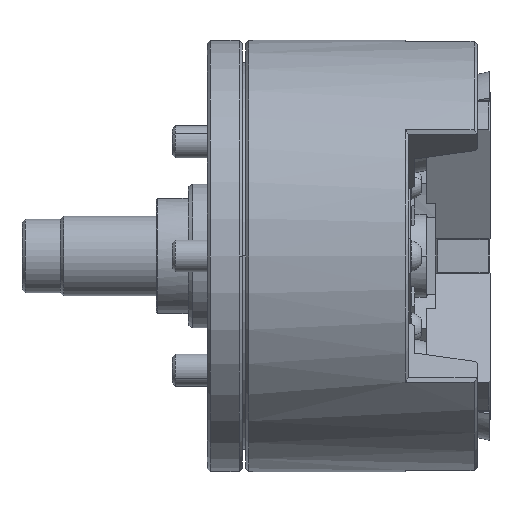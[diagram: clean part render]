
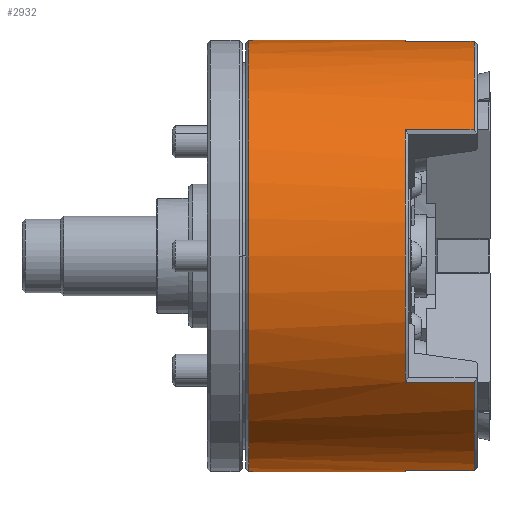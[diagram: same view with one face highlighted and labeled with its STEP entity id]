
A CAD part, front view. The second image highlights one B-rep face of the part: STEP entity #2932.
In plain terms, the highlighted cylindrical face has radius 67.5 mm (diameter 135 mm), a partial arc.
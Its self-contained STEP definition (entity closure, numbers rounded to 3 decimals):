
#720 = DIRECTION ( 'NONE',  ( 0., 0., 1. ) ) ;
#726 = DIRECTION ( 'NONE',  ( -1., 0., 0. ) ) ;
#764 = CARTESIAN_POINT ( 'NONE',  ( -0.478, 0., 0. ) ) ;
#867 = EDGE_LOOP ( 'NONE', ( #20086, #21588, #22414, #23324, #23371, #24035, #24059, #24535, #24774, #25534, #25646, #26256 ) ) ;
#1327 = VECTOR ( 'NONE', #2849, 1000. ) ;
#1451 = VERTEX_POINT ( 'NONE', #11927 ) ;
#1524 = DIRECTION ( 'NONE',  ( 1., 0., 0. ) ) ;
#1552 = LINE ( 'NONE', #4517, #1327 ) ;
#1614 = CARTESIAN_POINT ( 'NONE',  ( -49.5, 0., -67.5 ) ) ;
#1767 = AXIS2_PLACEMENT_3D ( 'NONE', #2396, #2369, #2282 ) ;
#1772 = DIRECTION ( 'NONE',  ( -1., 0., 0. ) ) ;
#1827 = EDGE_CURVE ( 'NONE', #7694, #1451, #16924, .T. ) ;
#1845 = VERTEX_POINT ( 'NONE', #1614 ) ;
#2282 = DIRECTION ( 'NONE',  ( 0., 0., -1. ) ) ;
#2369 = DIRECTION ( 'NONE',  ( 1., 0., 0. ) ) ;
#2396 = CARTESIAN_POINT ( 'NONE',  ( 21., 0., 0. ) ) ;
#2849 = DIRECTION ( 'NONE',  ( -1., 0., 0. ) ) ;
#2932 = ADVANCED_FACE ( 'NONE', ( #11735 ), #11650, .T. ) ;
#3248 = CARTESIAN_POINT ( 'NONE',  ( 21., -6.871, -67.149 ) ) ;
#3514 = CARTESIAN_POINT ( 'NONE',  ( 63.843, 0., -67.5 ) ) ;
#4164 = CARTESIAN_POINT ( 'NONE',  ( -49.5, 0., 67.5 ) ) ;
#4517 = CARTESIAN_POINT ( 'NONE',  ( 63.843, -54.717, -39.525 ) ) ;
#5233 = CIRCLE ( 'NONE', #1767, 67.5 ) ;
#5636 = CARTESIAN_POINT ( 'NONE',  ( -0.478, -54.717, 39.525 ) ) ;
#6472 = AXIS2_PLACEMENT_3D ( 'NONE', #7783, #7778, #7741 ) ;
#7694 = VERTEX_POINT ( 'NONE', #5636 ) ;
#7741 = DIRECTION ( 'NONE',  ( 0., 0., 1. ) ) ;
#7778 = DIRECTION ( 'NONE',  ( -1., 0., 0. ) ) ;
#7783 = CARTESIAN_POINT ( 'NONE',  ( -0.478, 0., 0. ) ) ;
#7870 = AXIS2_PLACEMENT_3D ( 'NONE', #17911, #17907, #17856 ) ;
#7948 = VERTEX_POINT ( 'NONE', #28090 ) ;
#8305 = VERTEX_POINT ( 'NONE', #22754 ) ;
#8326 = DIRECTION ( 'NONE',  ( 0., 0., -1. ) ) ;
#8357 = CIRCLE ( 'NONE', #6472, 67.5 ) ;
#8412 = DIRECTION ( 'NONE',  ( 1., 0., 0. ) ) ;
#8440 = CARTESIAN_POINT ( 'NONE',  ( -49.5, 0., 0. ) ) ;
#8509 = LINE ( 'NONE', #18653, #9216 ) ;
#8564 = EDGE_CURVE ( 'NONE', #16145, #14491, #18427, .T. ) ;
#9083 = EDGE_CURVE ( 'NONE', #22581, #21519, #16952, .T. ) ;
#9216 = VECTOR ( 'NONE', #1772, 1000. ) ;
#9684 = CARTESIAN_POINT ( 'NONE',  ( -0.478, 0., 0. ) ) ;
#9842 = EDGE_CURVE ( 'NONE', #21035, #21519, #14564, .T. ) ;
#10025 = DIRECTION ( 'NONE',  ( 1., 0., 0. ) ) ;
#10236 = CARTESIAN_POINT ( 'NONE',  ( 63.843, 0., 67.5 ) ) ;
#10659 = LINE ( 'NONE', #18443, #29198 ) ;
#11167 = AXIS2_PLACEMENT_3D ( 'NONE', #11284, #11216, #11839 ) ;
#11216 = DIRECTION ( 'NONE',  ( 1., 0., 0. ) ) ;
#11284 = CARTESIAN_POINT ( 'NONE',  ( 63.843, 0., 0. ) ) ;
#11650 = CYLINDRICAL_SURFACE ( 'NONE', #11167, 67.5 ) ;
#11735 = FACE_OUTER_BOUND ( 'NONE', #867, .T. ) ;
#11786 = EDGE_CURVE ( 'NONE', #22977, #8305, #8357, .T. ) ;
#11839 = DIRECTION ( 'NONE',  ( 0., 0., -1. ) ) ;
#11927 = CARTESIAN_POINT ( 'NONE',  ( 21., -54.717, 39.525 ) ) ;
#12044 = DIRECTION ( 'NONE',  ( 0., 0., 1. ) ) ;
#12491 = EDGE_CURVE ( 'NONE', #7948, #1451, #5233, .T. ) ;
#12519 = CARTESIAN_POINT ( 'NONE',  ( -0.478, -6.871, 67.149 ) ) ;
#13363 = EDGE_CURVE ( 'NONE', #16145, #25359, #1552, .T. ) ;
#13915 = EDGE_CURVE ( 'NONE', #22581, #1845, #18695, .T. ) ;
#14491 = VERTEX_POINT ( 'NONE', #3248 ) ;
#14564 = CIRCLE ( 'NONE', #22493, 67.5 ) ;
#15651 = AXIS2_PLACEMENT_3D ( 'NONE', #8440, #8412, #8326 ) ;
#16145 = VERTEX_POINT ( 'NONE', #18148 ) ;
#16645 = VECTOR ( 'NONE', #17872, 1000. ) ;
#16783 = VECTOR ( 'NONE', #10025, 1000. ) ;
#16924 = LINE ( 'NONE', #26689, #16645 ) ;
#16952 = LINE ( 'NONE', #10236, #16783 ) ;
#17397 = VECTOR ( 'NONE', #27229, 1000. ) ;
#17856 = DIRECTION ( 'NONE',  ( 0., 0., -1. ) ) ;
#17872 = DIRECTION ( 'NONE',  ( 1., 0., 0. ) ) ;
#17907 = DIRECTION ( 'NONE',  ( 1., 0., 0. ) ) ;
#17911 = CARTESIAN_POINT ( 'NONE',  ( 21., 0., 0. ) ) ;
#18148 = CARTESIAN_POINT ( 'NONE',  ( 21., -54.717, -39.525 ) ) ;
#18427 = CIRCLE ( 'NONE', #7870, 67.5 ) ;
#18443 = CARTESIAN_POINT ( 'NONE',  ( 63.843, -6.871, -67.149 ) ) ;
#18592 = EDGE_CURVE ( 'NONE', #1845, #22977, #23604, .T. ) ;
#18653 = CARTESIAN_POINT ( 'NONE',  ( 63.843, -6.871, 67.149 ) ) ;
#18695 = CIRCLE ( 'NONE', #15651, 67.5 ) ;
#19110 = CARTESIAN_POINT ( 'NONE',  ( -0.478, -54.717, -39.525 ) ) ;
#19354 = EDGE_CURVE ( 'NONE', #25359, #7694, #30619, .T. ) ;
#19627 = EDGE_CURVE ( 'NONE', #7948, #21035, #8509, .T. ) ;
#20086 = ORIENTED_EDGE ( 'NONE', *, *, #9083, .F. ) ;
#20720 = EDGE_CURVE ( 'NONE', #8305, #14491, #10659, .T. ) ;
#21035 = VERTEX_POINT ( 'NONE', #12519 ) ;
#21519 = VERTEX_POINT ( 'NONE', #22343 ) ;
#21588 = ORIENTED_EDGE ( 'NONE', *, *, #13915, .T. ) ;
#21803 = AXIS2_PLACEMENT_3D ( 'NONE', #9684, #26057, #12044 ) ;
#22343 = CARTESIAN_POINT ( 'NONE',  ( -0.478, 0., 67.5 ) ) ;
#22414 = ORIENTED_EDGE ( 'NONE', *, *, #18592, .T. ) ;
#22493 = AXIS2_PLACEMENT_3D ( 'NONE', #764, #726, #720 ) ;
#22581 = VERTEX_POINT ( 'NONE', #4164 ) ;
#22754 = CARTESIAN_POINT ( 'NONE',  ( -0.478, -6.871, -67.149 ) ) ;
#22872 = CARTESIAN_POINT ( 'NONE',  ( -0.478, 0., -67.5 ) ) ;
#22977 = VERTEX_POINT ( 'NONE', #22872 ) ;
#23324 = ORIENTED_EDGE ( 'NONE', *, *, #11786, .T. ) ;
#23371 = ORIENTED_EDGE ( 'NONE', *, *, #20720, .T. ) ;
#23604 = LINE ( 'NONE', #3514, #17397 ) ;
#24035 = ORIENTED_EDGE ( 'NONE', *, *, #8564, .F. ) ;
#24059 = ORIENTED_EDGE ( 'NONE', *, *, #13363, .T. ) ;
#24535 = ORIENTED_EDGE ( 'NONE', *, *, #19354, .T. ) ;
#24774 = ORIENTED_EDGE ( 'NONE', *, *, #1827, .T. ) ;
#25359 = VERTEX_POINT ( 'NONE', #19110 ) ;
#25534 = ORIENTED_EDGE ( 'NONE', *, *, #12491, .F. ) ;
#25646 = ORIENTED_EDGE ( 'NONE', *, *, #19627, .T. ) ;
#26057 = DIRECTION ( 'NONE',  ( -1., 0., 0. ) ) ;
#26256 = ORIENTED_EDGE ( 'NONE', *, *, #9842, .T. ) ;
#26689 = CARTESIAN_POINT ( 'NONE',  ( 63.843, -54.717, 39.525 ) ) ;
#27229 = DIRECTION ( 'NONE',  ( 1., 0., 0. ) ) ;
#28090 = CARTESIAN_POINT ( 'NONE',  ( 21., -6.871, 67.149 ) ) ;
#29198 = VECTOR ( 'NONE', #1524, 1000. ) ;
#30619 = CIRCLE ( 'NONE', #21803, 67.5 ) ;
